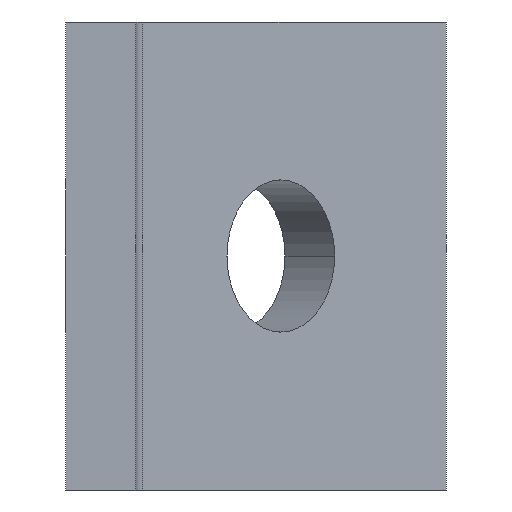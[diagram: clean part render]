
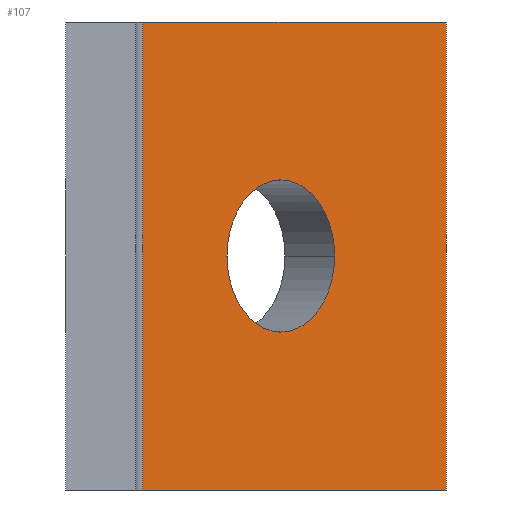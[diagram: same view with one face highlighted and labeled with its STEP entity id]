
A CAD part, left-side view. The second image highlights one B-rep face of the part: STEP entity #107.
In plain terms, the highlighted planar face has unit normal (-0.707, -0.707, 0).
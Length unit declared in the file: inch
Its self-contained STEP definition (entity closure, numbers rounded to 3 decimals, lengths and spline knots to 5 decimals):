
#87=EDGE_CURVE('',#204,#205,#206,.T.);
#101=EDGE_CURVE('',#205,#225,#226,.T.);
#103=EDGE_CURVE('',#228,#225,#229,.T.);
#107=ADVANCED_FACE('',(#233,#234),#235,.T.);
#123=EDGE_CURVE('',#204,#228,#256,.T.);
#204=VERTEX_POINT('',#363);
#205=VERTEX_POINT('',#364);
#206=LINE('',#365,#366);
#225=VERTEX_POINT('',#393);
#226=LINE('',#394,#395);
#228=VERTEX_POINT('',#398);
#229=LINE('',#399,#400);
#233=FACE_BOUND('',#406,.T.);
#234=FACE_OUTER_BOUND('',#407,.T.);
#235=PLANE('',#408);
#256=LINE('',#443,#444);
#363=CARTESIAN_POINT('',(2.18881,-0.82896,0.0));
#364=CARTESIAN_POINT('',(1.37815,-0.0183,0.0));
#365=CARTESIAN_POINT('',(2.18881,-0.82896,0.0));
#366=VECTOR('',#609,1.0);
#393=CARTESIAN_POINT('',(1.37815,-0.0183,1.25));
#394=CARTESIAN_POINT('',(1.37815,-0.0183,0.0));
#395=VECTOR('',#640,1.0);
#398=CARTESIAN_POINT('',(2.18881,-0.82896,1.25));
#399=CARTESIAN_POINT('',(2.18881,-0.82896,1.25));
#400=VECTOR('',#641,1.0);
#406=EDGE_LOOP('',(#644,#645,#646,#647));
#407=EDGE_LOOP('',(#648,#649,#650,#651));
#408=AXIS2_PLACEMENT_3D('',#652,#653,#654);
#443=CARTESIAN_POINT('',(2.18881,-0.82896,0.0));
#444=VECTOR('',#679,1.0);
#609=DIRECTION('',(-0.707,0.707,0.0));
#640=DIRECTION('',(0.0,0.0,1.0));
#641=DIRECTION('',(-0.707,0.707,0.0));
#644=ORIENTED_EDGE('',*,*,#749,.T.);
#645=ORIENTED_EDGE('',*,*,#738,.T.);
#646=ORIENTED_EDGE('',*,*,#750,.T.);
#647=ORIENTED_EDGE('',*,*,#725,.T.);
#648=ORIENTED_EDGE('',*,*,#103,.T.);
#649=ORIENTED_EDGE('',*,*,#101,.F.);
#650=ORIENTED_EDGE('',*,*,#87,.F.);
#651=ORIENTED_EDGE('',*,*,#123,.T.);
#652=CARTESIAN_POINT('',(1.78348,-0.42363,0.0));
#653=DIRECTION('',(-0.707,-0.707,0.0));
#654=DIRECTION('',(0.707,-0.707,-0.0));
#679=DIRECTION('',(0.0,0.0,1.0));
#725=EDGE_CURVE('',#768,#769,#770,.T.);
#738=EDGE_CURVE('',#789,#790,#791,.T.);
#749=EDGE_CURVE('',#769,#789,#808,.T.);
#750=EDGE_CURVE('',#790,#768,#809,.T.);
#768=VERTEX_POINT('',#827);
#769=VERTEX_POINT('',#828);
#770=B_SPLINE_CURVE_WITH_KNOTS('',3,(#829,#830,#831,#832),.UNSPECIFIED.,.F.,.F.,(4,4),(-1.0,-0.0),.UNSPECIFIED.);
#789=VERTEX_POINT('',#900);
#790=VERTEX_POINT('',#901);
#791=B_SPLINE_CURVE_WITH_KNOTS('',3,(#902,#903,#904,#905),.UNSPECIFIED.,.F.,.F.,(4,4),(-1.0,-0.0),.UNSPECIFIED.);
#808=B_SPLINE_CURVE_WITH_KNOTS('',3,(#971,#972,#973,#974),.UNSPECIFIED.,.F.,.F.,(4,4),(-1.0,-0.0),.UNSPECIFIED.);
#809=B_SPLINE_CURVE_WITH_KNOTS('',3,(#975,#976,#977,#978),.UNSPECIFIED.,.F.,.F.,(4,4),(-1.0,-0.0),.UNSPECIFIED.);
#827=CARTESIAN_POINT('',(1.60321,-0.24337,0.625));
#828=CARTESIAN_POINT('',(1.74686,-0.38702,0.82813));
#829=CARTESIAN_POINT('',(1.60321,-0.24337,0.625));
#830=CARTESIAN_POINT('',(1.60321,-0.24337,0.73719));
#831=CARTESIAN_POINT('',(1.66752,-0.30768,0.82813));
#832=CARTESIAN_POINT('',(1.74686,-0.38702,0.82813));
#900=CARTESIAN_POINT('',(1.89051,-0.53067,0.625));
#901=CARTESIAN_POINT('',(1.74686,-0.38702,0.42187));
#902=CARTESIAN_POINT('',(1.89051,-0.53067,0.625));
#903=CARTESIAN_POINT('',(1.89051,-0.53067,0.51281));
#904=CARTESIAN_POINT('',(1.82619,-0.46635,0.42187));
#905=CARTESIAN_POINT('',(1.74686,-0.38702,0.42187));
#971=CARTESIAN_POINT('',(1.74686,-0.38702,0.82813));
#972=CARTESIAN_POINT('',(1.82619,-0.46635,0.82813));
#973=CARTESIAN_POINT('',(1.89051,-0.53067,0.73719));
#974=CARTESIAN_POINT('',(1.89051,-0.53067,0.625));
#975=CARTESIAN_POINT('',(1.74686,-0.38702,0.42187));
#976=CARTESIAN_POINT('',(1.66752,-0.30768,0.42187));
#977=CARTESIAN_POINT('',(1.60321,-0.24337,0.51281));
#978=CARTESIAN_POINT('',(1.60321,-0.24337,0.625));
